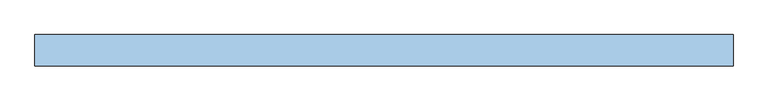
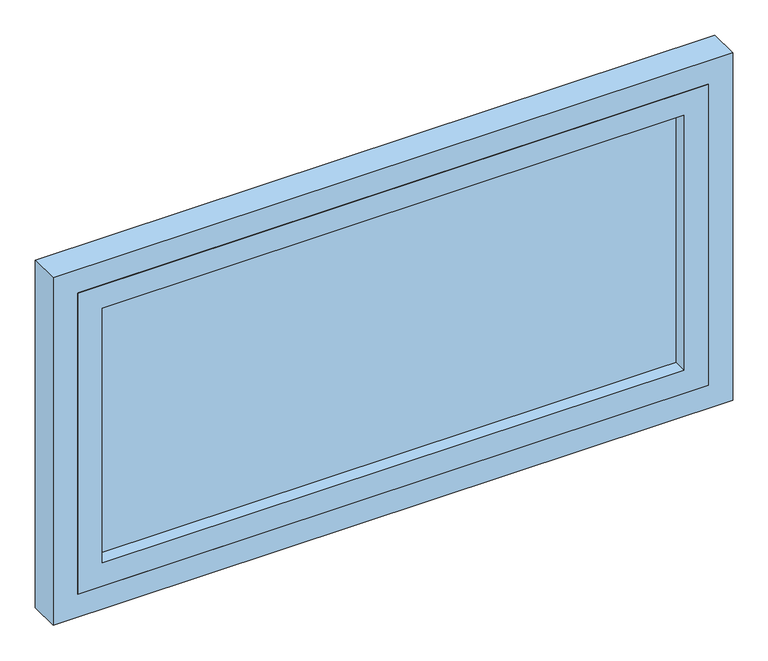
"""IFC4 building model written with IfcOpenShell, lengths in millimetres: window geometry, VENT_ALUM_PROY : VD-18 / PROY BAÑO 1.11 X 0.6."""

from ifc_helpers import new_model, si_unit, frame, origin, place, context, project, spatial, polyline, outline, extrude, source, transform, mapped, element, save


def window_76d28f88(model_context):
    return source(origin(), model_context, "Body", "SweptSolid", [
        extrude(outline(polyline([(1360.0, -515.0), (840.0, -515.0), (840.0, 515.0), (1360.0, 515.0), (1360.0, -515.0)]), holes=[polyline([(880.0, -475.0), (1320.0, -475.0), (1320.0, 475.0), (880.0, 475.0), (880.0, -475.0)])]), frame((0.0, -25.0, 0.0), z_axis=(0.0, 1.0, 0.0), x_axis=(0.0, 0.0, 1.0)), (0.0, 0.0, 1.0), 50.0),
        extrude(outline(polyline([(475.0, 3.0), (475.0, -3.0), (-475.0, -3.0), (-475.0, 3.0), (475.0, 3.0)])), frame((0.0, 0.0, 880.0), z_axis=(0.0, 0.0, 1.0), x_axis=(1.0, 0.0, 0.0)), (0.0, 0.0, 1.0), 440.0),
        extrude(outline(polyline([(1400.0, -555.0), (800.0, -555.0), (800.0, 555.0), (1400.0, 555.0), (1400.0, -555.0)]), holes=[polyline([(840.0, -515.0), (1360.0, -515.0), (1360.0, 515.0), (840.0, 515.0), (840.0, -515.0)])]), frame((0.0, -25.0, 0.0), z_axis=(0.0, 1.0, 0.0), x_axis=(0.0, 0.0, 1.0)), (0.0, 0.0, 1.0), 50.0),
    ])


if __name__ == "__main__":
    model = new_model("IFC4")
    model_context = context("Model", 3, world=origin())
    ifc_project = project(units=[si_unit("LENGTHUNIT", "METRE", prefix="MILLI")], contexts=[model_context])
    site = spatial("IfcSite", under=ifc_project)
    building = spatial("IfcBuilding", under=site)
    placement = place(None, origin())
    window_shape = window_76d28f88(model_context)
    element("IfcWindow", 1, ObjectType="VENT_ALUM_PROY : VD-18 / PROY BAÑO 1.11 X 0.6", at=placement, inside=building, context=model_context, shape_type="MappedRepresentation", body=[
        mapped(window_shape, transform((0.0, 0.0, 0.0), x_axis=(1.0, 0.0, 0.0), y_axis=(0.0, 1.0, 0.0), z_axis=(0.0, 0.0, 1.0))),
    ])
    save(model, "model.ifc")
